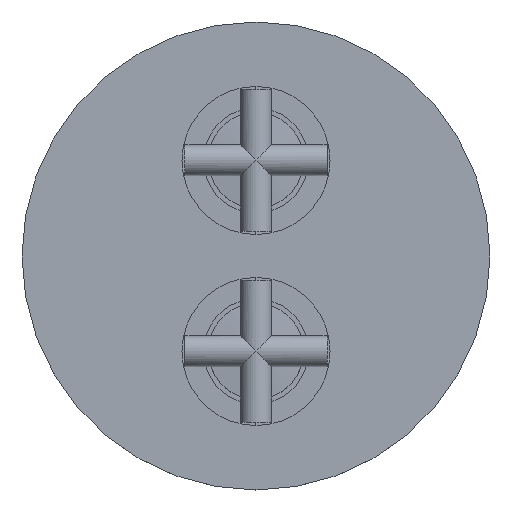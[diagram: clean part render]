
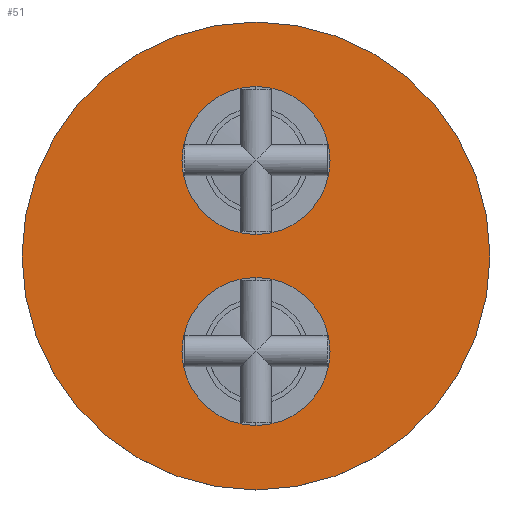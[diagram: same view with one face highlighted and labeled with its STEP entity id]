
A CAD part, top view. The second image highlights one B-rep face of the part: STEP entity #51.
In plain terms, the highlighted planar face has unit normal (0, 0, 1).
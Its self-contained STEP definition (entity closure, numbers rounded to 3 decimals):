
#51 = ADVANCED_FACE('',(#52),#72,.T.);
#52 = FACE_BOUND('',#53,.T.);
#53 = EDGE_LOOP('',(#54,#65));
#54 = ORIENTED_EDGE('',*,*,#55,.T.);
#55 = EDGE_CURVE('',#56,#58,#60,.T.);
#56 = VERTEX_POINT('',#57);
#57 = CARTESIAN_POINT('',(-98.,0.,
    5.));
#58 = VERTEX_POINT('',#59);
#59 = CARTESIAN_POINT('',(98.,0.,
    5.));
#60 = CIRCLE('',#61,98.);
#61 = AXIS2_PLACEMENT_3D('',#62,#63,#64);
#62 = CARTESIAN_POINT('',(0.,0.,
    5.));
#63 = DIRECTION('',(0.,0.,1.));
#64 = DIRECTION('',(1.,0.,-0.));
#65 = ORIENTED_EDGE('',*,*,#66,.T.);
#66 = EDGE_CURVE('',#58,#56,#67,.T.);
#67 = CIRCLE('',#68,98.);
#68 = AXIS2_PLACEMENT_3D('',#69,#70,#71);
#69 = CARTESIAN_POINT('',(0.,0.,
    5.));
#70 = DIRECTION('',(0.,0.,1.));
#71 = DIRECTION('',(1.,0.,-0.));
#72 = PLANE('',#73);
#73 = AXIS2_PLACEMENT_3D('',#74,#75,#76);
#74 = CARTESIAN_POINT('',(98.,0.,
    5.));
#75 = DIRECTION('',(0.,0.,1.));
#76 = DIRECTION('',(0.,1.,0.));
